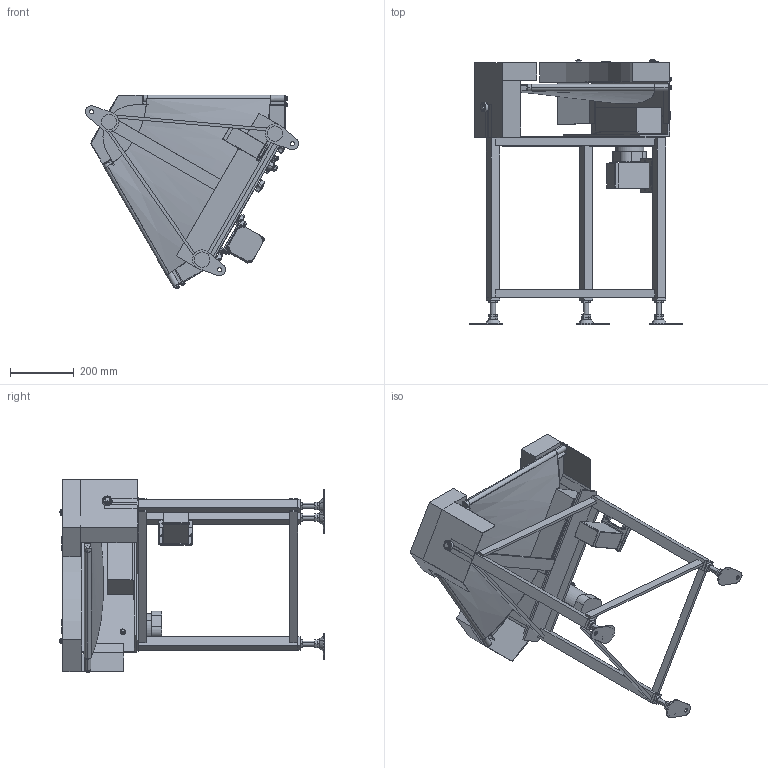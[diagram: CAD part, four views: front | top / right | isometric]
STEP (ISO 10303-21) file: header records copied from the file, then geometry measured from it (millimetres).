
FILE_DESCRIPTION (( 'STEP AP214' ), '1' );
FILE_NAME ('GBC60-HS300-IV-L.STEP', '2024-01-17T07:49:19', ( '' ), ( '' ), 'SwSTEP 2.0', 'SolidWorks 2017', '' );
FILE_SCHEMA (( 'AUTOMOTIVE_DESIGN' ));
Length unit declared in the file: millimetre
Products named in the file (1): GBC60-HS300-IV-L
Bounding box: 665.74 x 827.92 x 606.24 mm (x, y, z)
Volume: 14726614.8 mm3; surface area: 2879179.2 mm2
Topology: 78 solids, 78 shells, 1532 faces, 3501 edges, 2193 vertices
Faces by surface type: plane 819, cylinder 414, cone 159, bspline 78, torus 48, sphere 14
Entity records: 51985 total; most frequent: CARTESIAN_POINT 16675, DIRECTION 7181, ORIENTED_EDGE 6930, EDGE_CURVE 3465, AXIS2_PLACEMENT_3D 2615, VERTEX_POINT 2193, LINE 1951, VECTOR 1951
